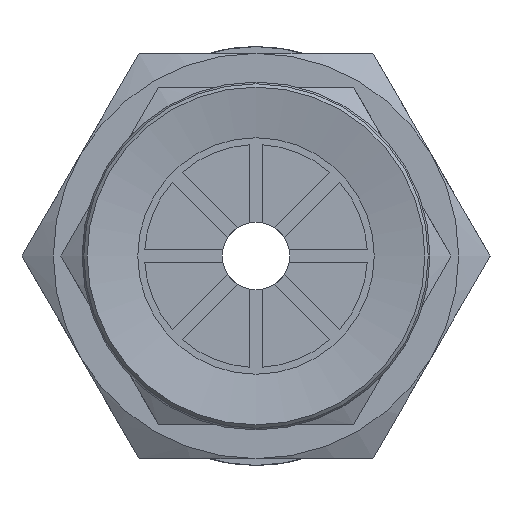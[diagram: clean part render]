
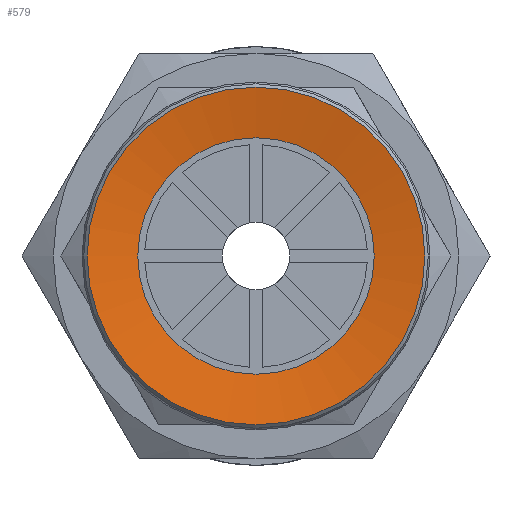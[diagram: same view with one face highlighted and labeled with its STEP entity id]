
A CAD part, front view. The second image highlights one B-rep face of the part: STEP entity #579.
In plain terms, the highlighted conical face has half-angle 80 degrees and reference radius 5 mm.
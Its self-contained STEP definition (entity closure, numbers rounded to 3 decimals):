
#579=ADVANCED_FACE('',(#935,#936),#937,.F.);
#935=FACE_BOUND('',#1593,.T.);
#936=FACE_OUTER_BOUND('',#1594,.T.);
#937=CONICAL_SURFACE('',#1595,5.0,1.396);
#1593=EDGE_LOOP('',(#2575));
#1594=EDGE_LOOP('',(#2576));
#1595=AXIS2_PLACEMENT_3D('',#2577,#2578,#2579);
#2575=ORIENTED_EDGE('',*,*,#3154,.T.);
#2576=ORIENTED_EDGE('',*,*,#3256,.F.);
#2577=CARTESIAN_POINT('',(0.0,0.,0.));
#2578=DIRECTION('',(0.0,0.,-1.0));
#2579=DIRECTION('',(0.0,1.0,0.));
#3154=EDGE_CURVE('',#3616,#3616,#3617,.T.);
#3256=EDGE_CURVE('',#3794,#3794,#3795,.T.);
#3616=VERTEX_POINT('',#4812);
#3617=CIRCLE('',#4813,3.5);
#3794=VERTEX_POINT('',#5048);
#3795=CIRCLE('',#5049,5.0);
#4812=CARTESIAN_POINT('',(0.0,-3.5,0.264));
#4813=AXIS2_PLACEMENT_3D('',#5518,#5519,#5520);
#5048=CARTESIAN_POINT('',(0.0,-5.0,0.));
#5049=AXIS2_PLACEMENT_3D('',#5708,#5709,#5710);
#5518=CARTESIAN_POINT('',(0.0,0.,0.264));
#5519=DIRECTION('',(0.0,0.,1.0));
#5520=DIRECTION('',(0.0,-1.0,0.));
#5708=CARTESIAN_POINT('',(0.0,0.,0.));
#5709=DIRECTION('',(0.0,0.,1.0));
#5710=DIRECTION('',(0.0,-1.0,0.));
